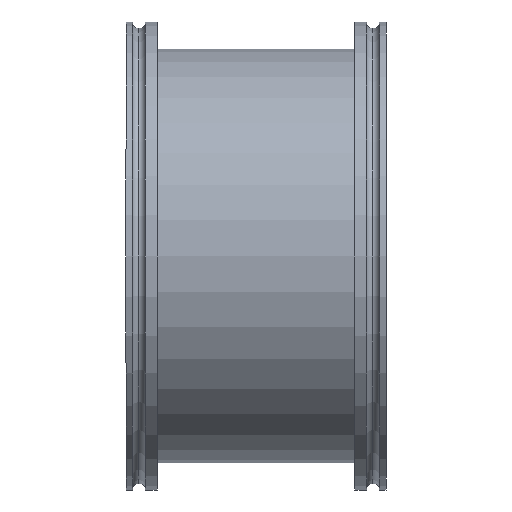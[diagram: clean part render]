
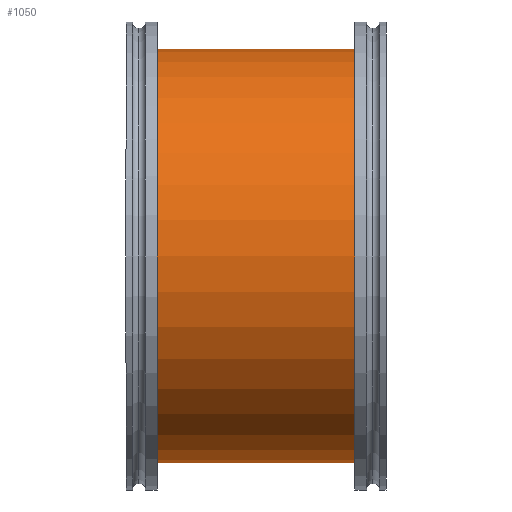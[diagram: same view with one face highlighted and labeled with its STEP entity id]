
A CAD part, left-side view. The second image highlights one B-rep face of the part: STEP entity #1050.
In plain terms, the highlighted cylindrical face has radius 79.5 mm (diameter 159 mm), a partial arc.
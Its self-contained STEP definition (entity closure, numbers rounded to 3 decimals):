
#24 = EDGE_CURVE ( 'NONE', #662, #446, #305, .T. ) ;
#37 = CARTESIAN_POINT ( 'NONE',  ( 0., 8., 0. ) ) ;
#90 = FACE_OUTER_BOUND ( 'NONE', #597, .T. ) ;
#94 = DIRECTION ( 'NONE',  ( 0., 1., 0. ) ) ;
#119 = EDGE_CURVE ( 'NONE', #313, #416, #151, .T. ) ;
#151 = CIRCLE ( 'NONE', #455, 79.5 ) ;
#189 = ORIENTED_EDGE ( 'NONE', *, *, #536, .F. ) ;
#201 = DIRECTION ( 'NONE',  ( 0., -1., 0. ) ) ;
#233 = DIRECTION ( 'NONE',  ( 0., -1., 0. ) ) ;
#250 = CARTESIAN_POINT ( 'NONE',  ( 0., 92., 79.5 ) ) ;
#261 = LINE ( 'NONE', #250, #534 ) ;
#276 = DIRECTION ( 'NONE',  ( 0., 0., 1. ) ) ;
#305 = CIRCLE ( 'NONE', #1030, 79.5 ) ;
#313 = VERTEX_POINT ( 'NONE', #683 ) ;
#340 = EDGE_CURVE ( 'NONE', #313, #662, #1159, .T. ) ;
#346 = CARTESIAN_POINT ( 'NONE',  ( 0., 92., 79.5 ) ) ;
#362 = CARTESIAN_POINT ( 'NONE',  ( 0., 8., 79.5 ) ) ;
#416 = VERTEX_POINT ( 'NONE', #346 ) ;
#446 = VERTEX_POINT ( 'NONE', #362 ) ;
#455 = AXIS2_PLACEMENT_3D ( 'NONE', #828, #94, #276 ) ;
#501 = DIRECTION ( 'NONE',  ( 0., 0., 1. ) ) ;
#530 = ORIENTED_EDGE ( 'NONE', *, *, #119, .F. ) ;
#534 = VECTOR ( 'NONE', #701, 1000. ) ;
#536 = EDGE_CURVE ( 'NONE', #416, #446, #261, .T. ) ;
#597 = EDGE_LOOP ( 'NONE', ( #189, #530, #706, #1058 ) ) ;
#662 = VERTEX_POINT ( 'NONE', #833 ) ;
#683 = CARTESIAN_POINT ( 'NONE',  ( 0., 92., -79.5 ) ) ;
#701 = DIRECTION ( 'NONE',  ( 0., -1., 0. ) ) ;
#706 = ORIENTED_EDGE ( 'NONE', *, *, #340, .T. ) ;
#768 = DIRECTION ( 'NONE',  ( 0., 1., 0. ) ) ;
#771 = CARTESIAN_POINT ( 'NONE',  ( 0., 92., -79.5 ) ) ;
#828 = CARTESIAN_POINT ( 'NONE',  ( 0., 92., 0. ) ) ;
#833 = CARTESIAN_POINT ( 'NONE',  ( 0., 8., -79.5 ) ) ;
#919 = CARTESIAN_POINT ( 'NONE',  ( 0., 92., 0. ) ) ;
#1030 = AXIS2_PLACEMENT_3D ( 'NONE', #37, #768, #501 ) ;
#1050 = ADVANCED_FACE ( 'NONE', ( #90 ), #1103, .T. ) ;
#1052 = AXIS2_PLACEMENT_3D ( 'NONE', #919, #201, #1118 ) ;
#1058 = ORIENTED_EDGE ( 'NONE', *, *, #24, .T. ) ;
#1075 = VECTOR ( 'NONE', #233, 1000. ) ;
#1103 = CYLINDRICAL_SURFACE ( 'NONE', #1052, 79.5 ) ;
#1118 = DIRECTION ( 'NONE',  ( 0., 0., -1. ) ) ;
#1159 = LINE ( 'NONE', #771, #1075 ) ;
